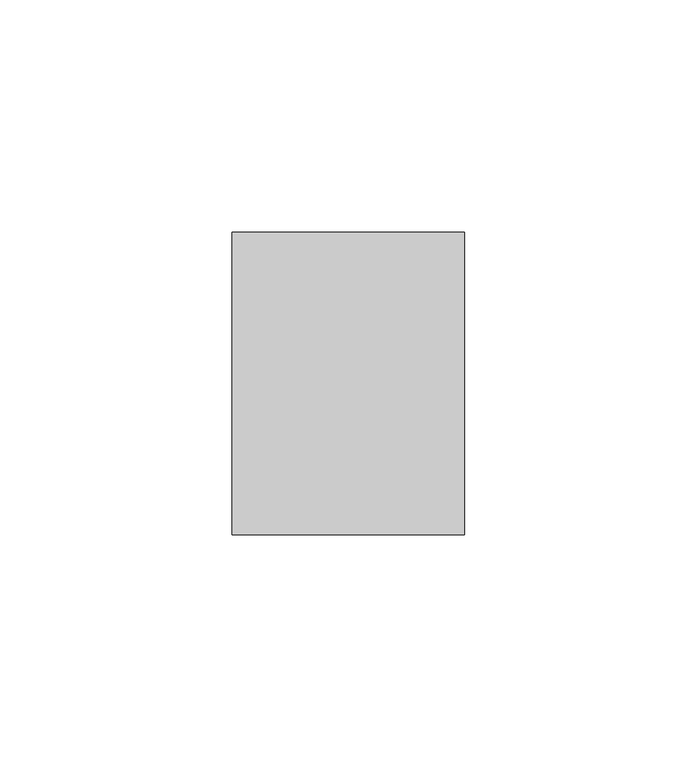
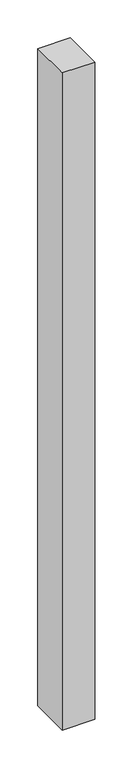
"""IFC4 building model written with IfcOpenShell, lengths in millimetres: member geometry, Прямоугольный импост : 50 мм x 65 мм."""

from ifc_helpers import new_model, si_unit, frame, origin, place, context, project, spatial, polyline, outline, extrude, source, transform, mapped, element, save


def member_4463d2a1(model_context):
    return source(origin(), model_context, "Body", "SweptSolid", [
        extrude(outline(polyline([(25.0, 32.5), (25.0, -32.5), (-25.0, -32.5), (-25.0, 32.5), (25.0, 32.5)])), frame((0.0, 0.0, -1062.651721), z_axis=(0.0, 0.0, 1.0), x_axis=(1.0, 0.0, 0.0)), (0.0, 0.0, 1.0), 1062.651721),
    ])


if __name__ == "__main__":
    model = new_model("IFC4")
    model_context = context("Model", 3, world=origin())
    ifc_project = project(units=[si_unit("LENGTHUNIT", "METRE", prefix="MILLI")], contexts=[model_context])
    site = spatial("IfcSite", under=ifc_project)
    building = spatial("IfcBuilding", under=site)
    placement = place(None, origin())
    member_shape = member_4463d2a1(model_context)
    element("IfcMember", 1, ObjectType="Прямоугольный импост : 50 мм x 65 мм", at=placement, inside=building, context=model_context, shape_type="MappedRepresentation", body=[
        mapped(member_shape, transform((0.0, 0.0, 0.0), x_axis=(1.0, 0.0, 0.0), y_axis=(0.0, 1.0, 0.0), z_axis=(0.0, 0.0, 1.0))),
    ])
    save(model, "model.ifc")
